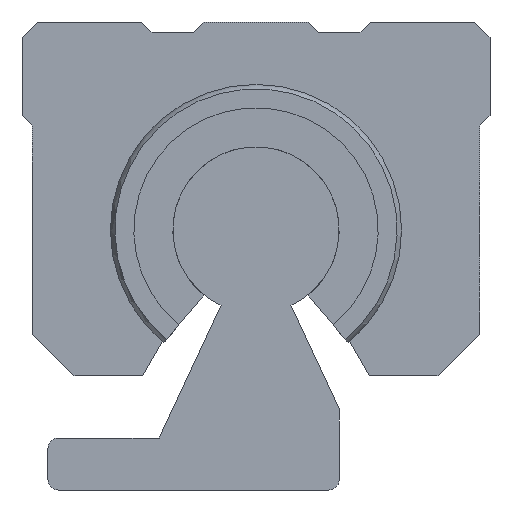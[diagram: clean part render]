
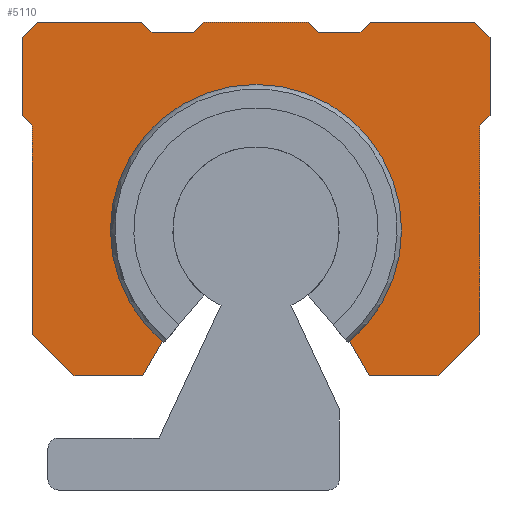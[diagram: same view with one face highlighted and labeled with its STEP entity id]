
A CAD part, left-side view. The second image highlights one B-rep face of the part: STEP entity #5110.
In plain terms, the highlighted planar face has unit normal (-1, 0, 0).
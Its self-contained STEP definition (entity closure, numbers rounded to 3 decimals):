
#3877=CARTESIAN_POINT('',(274.854,-9.0,14.276));
#3878=VERTEX_POINT('',#3877);
#3885=CARTESIAN_POINT('',(274.854,9.0,14.276));
#3886=VERTEX_POINT('',#3885);
#3887=CARTESIAN_POINT('',(274.854,0.0,25.0));
#3888=DIRECTION('',(-1.0,0.0,0.0));
#3889=DIRECTION('',(0.0,-1.0,0.0));
#3890=AXIS2_PLACEMENT_3D('',#3887,#3888,#3889);
#3891=CIRCLE('',#3890,14.);
#3892=EDGE_CURVE('',#3878,#3886,#3891,.T.);
#4060=CARTESIAN_POINT('',(274.854,-21.5,15.));
#4061=VERTEX_POINT('',#4060);
#4068=CARTESIAN_POINT('',(274.854,-17.5,11.));
#4069=VERTEX_POINT('',#4068);
#4070=CARTESIAN_POINT('',(274.854,-21.5,15.));
#4071=DIRECTION('',(0.0,0.707,-0.707));
#4072=VECTOR('',#4071,5.657);
#4073=LINE('',#4070,#4072);
#4074=EDGE_CURVE('',#4061,#4069,#4073,.T.);
#4099=CARTESIAN_POINT('',(274.854,-21.5,35.0));
#4100=VERTEX_POINT('',#4099);
#4107=CARTESIAN_POINT('',(274.854,-21.5,35.0));
#4108=DIRECTION('',(0.0,0.0,-1.0));
#4109=VECTOR('',#4108,20.);
#4110=LINE('',#4107,#4109);
#4111=EDGE_CURVE('',#4100,#4061,#4110,.T.);
#4297=CARTESIAN_POINT('',(274.854,17.5,11.));
#4298=VERTEX_POINT('',#4297);
#4305=CARTESIAN_POINT('',(274.854,21.5,15.));
#4306=VERTEX_POINT('',#4305);
#4307=CARTESIAN_POINT('',(274.854,17.5,11.));
#4308=DIRECTION('',(0.0,0.707,0.707));
#4309=VECTOR('',#4308,5.657);
#4310=LINE('',#4307,#4309);
#4311=EDGE_CURVE('',#4298,#4306,#4310,.T.);
#4329=CARTESIAN_POINT('',(274.854,10.892,11.));
#4330=VERTEX_POINT('',#4329);
#4337=CARTESIAN_POINT('',(274.854,10.892,11.));
#4338=DIRECTION('',(0.0,1.0,0.0));
#4339=VECTOR('',#4338,6.608);
#4340=LINE('',#4337,#4339);
#4341=EDGE_CURVE('',#4330,#4298,#4340,.T.);
#4351=CARTESIAN_POINT('',(274.854,-5.0,45.0));
#4352=VERTEX_POINT('',#4351);
#4353=CARTESIAN_POINT('',(274.854,-6.,44.0));
#4354=VERTEX_POINT('',#4353);
#4355=CARTESIAN_POINT('',(274.854,-5.0,45.0));
#4356=DIRECTION('',(0.0,-0.707,-0.707));
#4357=VECTOR('',#4356,1.414);
#4358=LINE('',#4355,#4357);
#4359=EDGE_CURVE('',#4352,#4354,#4358,.T.);
#4383=CARTESIAN_POINT('',(274.854,-10.,44.0));
#4384=VERTEX_POINT('',#4383);
#4385=CARTESIAN_POINT('',(274.854,-6.,44.0));
#4386=DIRECTION('',(0.0,-1.0,0.0));
#4387=VECTOR('',#4386,4.);
#4388=LINE('',#4385,#4387);
#4389=EDGE_CURVE('',#4354,#4384,#4388,.T.);
#4406=CARTESIAN_POINT('',(274.854,11.,45.0));
#4407=VERTEX_POINT('',#4406);
#4408=CARTESIAN_POINT('',(274.854,10.,44.0));
#4409=VERTEX_POINT('',#4408);
#4410=CARTESIAN_POINT('',(274.854,11.,45.0));
#4411=DIRECTION('',(0.0,-0.707,-0.707));
#4412=VECTOR('',#4411,1.414);
#4413=LINE('',#4410,#4412);
#4414=EDGE_CURVE('',#4407,#4409,#4413,.T.);
#4438=CARTESIAN_POINT('',(274.854,6.,44.0));
#4439=VERTEX_POINT('',#4438);
#4440=CARTESIAN_POINT('',(274.854,10.,44.0));
#4441=DIRECTION('',(0.0,-1.0,0.0));
#4442=VECTOR('',#4441,4.);
#4443=LINE('',#4440,#4442);
#4444=EDGE_CURVE('',#4409,#4439,#4443,.T.);
#4461=CARTESIAN_POINT('',(274.854,5.0,45.0));
#4462=VERTEX_POINT('',#4461);
#4463=CARTESIAN_POINT('',(274.854,6.,44.0));
#4464=DIRECTION('',(0.0,-0.707,0.707));
#4465=VECTOR('',#4464,1.414);
#4466=LINE('',#4463,#4465);
#4467=EDGE_CURVE('',#4439,#4462,#4466,.T.);
#4485=CARTESIAN_POINT('',(274.854,-11.,45.0));
#4486=VERTEX_POINT('',#4485);
#4487=CARTESIAN_POINT('',(274.854,-10.,44.0));
#4488=DIRECTION('',(0.0,-0.707,0.707));
#4489=VECTOR('',#4488,1.414);
#4490=LINE('',#4487,#4489);
#4491=EDGE_CURVE('',#4384,#4486,#4490,.T.);
#4509=CARTESIAN_POINT('',(274.854,21.5,35.0));
#4510=VERTEX_POINT('',#4509);
#4511=CARTESIAN_POINT('',(274.854,22.5,36.0));
#4512=VERTEX_POINT('',#4511);
#4513=CARTESIAN_POINT('',(274.854,21.5,35.0));
#4514=DIRECTION('',(0.0,0.707,0.707));
#4515=VECTOR('',#4514,1.414);
#4516=LINE('',#4513,#4515);
#4517=EDGE_CURVE('',#4510,#4512,#4516,.T.);
#4540=CARTESIAN_POINT('',(274.854,-22.5,36.0));
#4541=VERTEX_POINT('',#4540);
#4542=CARTESIAN_POINT('',(274.854,-22.5,36.0));
#4543=DIRECTION('',(0.0,0.707,-0.707));
#4544=VECTOR('',#4543,1.414);
#4545=LINE('',#4542,#4544);
#4546=EDGE_CURVE('',#4541,#4100,#4545,.T.);
#4565=CARTESIAN_POINT('',(274.854,22.5,43.5));
#4566=VERTEX_POINT('',#4565);
#4573=CARTESIAN_POINT('',(274.854,21.0,45.0));
#4574=VERTEX_POINT('',#4573);
#4575=CARTESIAN_POINT('',(274.854,22.5,43.5));
#4576=DIRECTION('',(0.0,-0.707,0.707));
#4577=VECTOR('',#4576,2.121);
#4578=LINE('',#4575,#4577);
#4579=EDGE_CURVE('',#4566,#4574,#4578,.T.);
#4598=CARTESIAN_POINT('',(274.854,22.5,36.0));
#4599=DIRECTION('',(0.0,0.0,1.0));
#4600=VECTOR('',#4599,7.5);
#4601=LINE('',#4598,#4600);
#4602=EDGE_CURVE('',#4512,#4566,#4601,.T.);
#4613=CARTESIAN_POINT('',(274.854,-21.,45.0));
#4614=VERTEX_POINT('',#4613);
#4621=CARTESIAN_POINT('',(274.854,-22.5,43.5));
#4622=VERTEX_POINT('',#4621);
#4623=CARTESIAN_POINT('',(274.854,-21.,45.0));
#4624=DIRECTION('',(0.0,-0.707,-0.707));
#4625=VECTOR('',#4624,2.121);
#4626=LINE('',#4623,#4625);
#4627=EDGE_CURVE('',#4614,#4622,#4626,.T.);
#4646=CARTESIAN_POINT('',(274.854,-11.,45.0));
#4647=DIRECTION('',(0.0,-1.0,0.0));
#4648=VECTOR('',#4647,10.0);
#4649=LINE('',#4646,#4648);
#4650=EDGE_CURVE('',#4486,#4614,#4649,.T.);
#4983=CARTESIAN_POINT('',(274.854,21.5,15.));
#4984=DIRECTION('',(0.0,0.0,1.0));
#4985=VECTOR('',#4984,20.);
#4986=LINE('',#4983,#4985);
#4987=EDGE_CURVE('',#4306,#4510,#4986,.T.);
#5007=CARTESIAN_POINT('',(274.854,9.0,14.276));
#5008=DIRECTION('',(0.0,0.5,-0.866));
#5009=VECTOR('',#5008,3.783);
#5010=LINE('',#5007,#5009);
#5011=EDGE_CURVE('',#3886,#4330,#5010,.T.);
#5023=CARTESIAN_POINT('',(274.854,-10.892,11.));
#5024=VERTEX_POINT('',#5023);
#5031=CARTESIAN_POINT('',(274.854,-10.892,11.));
#5032=DIRECTION('',(0.0,0.5,0.866));
#5033=VECTOR('',#5032,3.783);
#5034=LINE('',#5031,#5033);
#5035=EDGE_CURVE('',#5024,#3878,#5034,.T.);
#5053=CARTESIAN_POINT('',(274.854,-17.5,11.));
#5054=DIRECTION('',(0.0,1.0,0.0));
#5055=VECTOR('',#5054,6.608);
#5056=LINE('',#5053,#5055);
#5057=EDGE_CURVE('',#4069,#5024,#5056,.T.);
#5064=CARTESIAN_POINT('',(274.854,0.,28.85));
#5065=DIRECTION('',(1.0,0.0,0.0));
#5066=DIRECTION('',(0.0,0.0,-1.0));
#5067=AXIS2_PLACEMENT_3D('',#5064,#5065,#5066);
#5068=PLANE('',#5067);
#5069=ORIENTED_EDGE('',*,*,#4074,.F.);
#5070=ORIENTED_EDGE('',*,*,#4111,.F.);
#5071=ORIENTED_EDGE('',*,*,#4546,.F.);
#5072=CARTESIAN_POINT('',(274.854,-22.5,43.5));
#5073=DIRECTION('',(0.0,0.0,-1.0));
#5074=VECTOR('',#5073,7.5);
#5075=LINE('',#5072,#5074);
#5076=EDGE_CURVE('',#4622,#4541,#5075,.T.);
#5077=ORIENTED_EDGE('',*,*,#5076,.F.);
#5078=ORIENTED_EDGE('',*,*,#4627,.F.);
#5079=ORIENTED_EDGE('',*,*,#4650,.F.);
#5080=ORIENTED_EDGE('',*,*,#4491,.F.);
#5081=ORIENTED_EDGE('',*,*,#4389,.F.);
#5082=ORIENTED_EDGE('',*,*,#4359,.F.);
#5083=CARTESIAN_POINT('',(274.854,5.0,45.0));
#5084=DIRECTION('',(0.0,-1.0,0.0));
#5085=VECTOR('',#5084,10.0);
#5086=LINE('',#5083,#5085);
#5087=EDGE_CURVE('',#4462,#4352,#5086,.T.);
#5088=ORIENTED_EDGE('',*,*,#5087,.F.);
#5089=ORIENTED_EDGE('',*,*,#4467,.F.);
#5090=ORIENTED_EDGE('',*,*,#4444,.F.);
#5091=ORIENTED_EDGE('',*,*,#4414,.F.);
#5092=CARTESIAN_POINT('',(274.854,21.0,45.0));
#5093=DIRECTION('',(0.0,-1.0,0.0));
#5094=VECTOR('',#5093,10.);
#5095=LINE('',#5092,#5094);
#5096=EDGE_CURVE('',#4574,#4407,#5095,.T.);
#5097=ORIENTED_EDGE('',*,*,#5096,.F.);
#5098=ORIENTED_EDGE('',*,*,#4579,.F.);
#5099=ORIENTED_EDGE('',*,*,#4602,.F.);
#5100=ORIENTED_EDGE('',*,*,#4517,.F.);
#5101=ORIENTED_EDGE('',*,*,#4987,.F.);
#5102=ORIENTED_EDGE('',*,*,#4311,.F.);
#5103=ORIENTED_EDGE('',*,*,#4341,.F.);
#5104=ORIENTED_EDGE('',*,*,#5011,.F.);
#5105=ORIENTED_EDGE('',*,*,#3892,.F.);
#5106=ORIENTED_EDGE('',*,*,#5035,.F.);
#5107=ORIENTED_EDGE('',*,*,#5057,.F.);
#5108=EDGE_LOOP('',(#5069,#5070,#5071,#5077,#5078,#5079,#5080,#5081,#5082,#5088,#5089,#5090,#5091,#5097,#5098,#5099,#5100,#5101,#5102,#5103,#5104,#5105,#5106,#5107));
#5109=FACE_OUTER_BOUND('',#5108,.T.);
#5110=ADVANCED_FACE('',(#5109),#5068,.F.);
